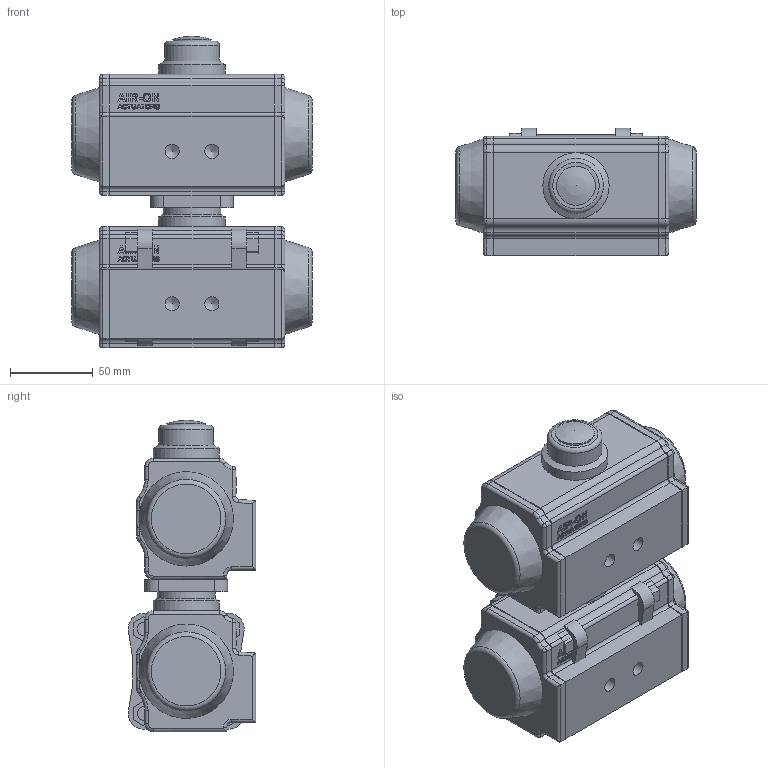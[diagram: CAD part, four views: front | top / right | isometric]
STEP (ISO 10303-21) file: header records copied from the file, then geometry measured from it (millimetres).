
FILE_DESCRIPTION( ( 'Unknown' ), '1' );
FILE_NAME( 'W:/ECCUA/ROOTSI BPS 3D vidinad/Kuulkraanid/Roostevaba kuulkraanid/Ball valve BPS 2420/Ball valve with pneumatic actuator BPS/STEP format/BPS 2420032P ball valve DN32.stp', 'Unknown', ( 'Unknown' ), ( 'Unknown' ), 'PSStep 10.1', 'Unknown', ' ' );
FILE_SCHEMA( ( 'AUTOMOTIVE_DESIGN { 1 0 10303 214 1 1 1 1 }' ) );
Length unit declared in the file: millimetre
Products named in the file (5): Assem1; BPS 2420032 ball valve DN32; BPS 8300050DA-SR pneumatic actuator
Bounding box: 145 x 76.98 x 188 mm (x, y, z)
Volume: 1702276.4 mm3; surface area: 248092.7 mm2
Topology: 8 solids, 8 shells, 1132 faces, 2830 edges, 1850 vertices
Faces by surface type: plane 488, cylinder 272, extrusion 202, bspline 90, torus 46, cone 28, sphere 6
Full cylindrical faces by diameter (mm): 4.134 x8, 4.917 x8, 8 x24, 8.566 x4, 23.5 x2, 27 x2, 32 x2, 33 x2, 35 x2, 38.952 x4, 40 x2, 62 x2
Entity records: 26023 total; most frequent: CARTESIAN_POINT 8980, ORIENTED_EDGE 2652, DIRECTION 2116, EDGE_CURVE 1326, VERTEX_POINT 905, VECTOR 748, EDGE_LOOP 711, AXIS2_PLACEMENT_3D 684
